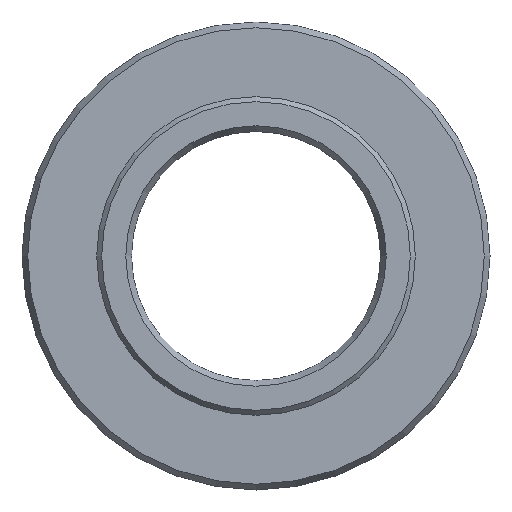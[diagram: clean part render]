
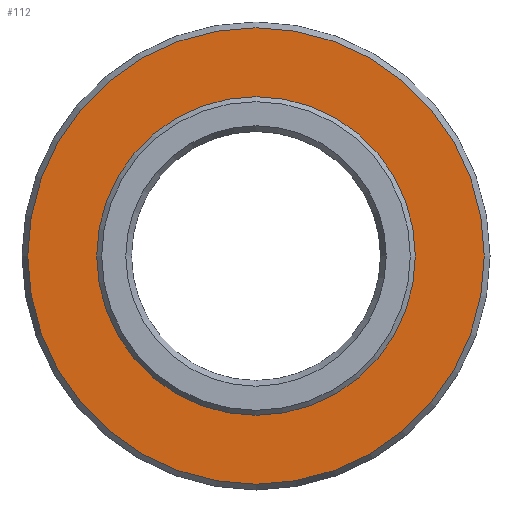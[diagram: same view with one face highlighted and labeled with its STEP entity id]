
A CAD part, left-side view. The second image highlights one B-rep face of the part: STEP entity #112.
In plain terms, the highlighted planar face has unit normal (-1, 0, 0).
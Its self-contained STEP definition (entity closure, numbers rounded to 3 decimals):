
#107=PLANE('',#279);
#112=ADVANCED_FACE('',(#131,#132),#107,.T.);
#131=FACE_BOUND('',#163,.T.);
#132=FACE_BOUND('',#164,.T.);
#163=EDGE_LOOP('',(#195));
#164=EDGE_LOOP('',(#196));
#195=ORIENTED_EDGE('',*,*,#243,.T.);
#196=ORIENTED_EDGE('',*,*,#244,.T.);
#227=VERTEX_POINT('',#379);
#228=VERTEX_POINT('',#381);
#243=EDGE_CURVE('',#227,#227,#259,.T.);
#244=EDGE_CURVE('',#228,#228,#260,.T.);
#259=CIRCLE('',#277,22.923);
#260=CIRCLE('',#278,16.);
#277=AXIS2_PLACEMENT_3D('',#378,#314,#315);
#278=AXIS2_PLACEMENT_3D('',#380,#316,#317);
#279=AXIS2_PLACEMENT_3D('',#382,#318,#319);
#314=DIRECTION('',(-1.,0.,0.));
#315=DIRECTION('',(0.,0.,1.));
#316=DIRECTION('',(1.,0.,0.));
#317=DIRECTION('',(0.,0.,-1.));
#318=DIRECTION('',(-1.,0.,0.));
#319=DIRECTION('',(0.,0.,1.));
#378=CARTESIAN_POINT('',(0.,0.,0.));
#379=CARTESIAN_POINT('',(0.,0.,22.923));
#380=CARTESIAN_POINT('',(0.,0.,0.));
#381=CARTESIAN_POINT('',(0.,0.,-16.));
#382=CARTESIAN_POINT('',(0.,23.5,0.));
